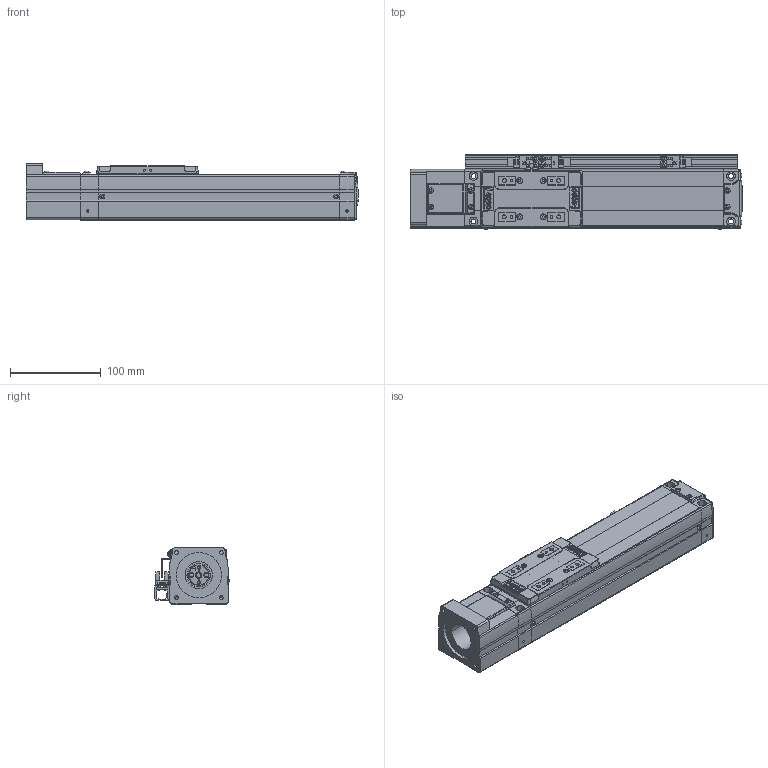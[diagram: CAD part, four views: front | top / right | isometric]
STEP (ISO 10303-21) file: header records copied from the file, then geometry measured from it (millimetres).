
FILE_DESCRIPTION(('STEP AP203'),'1');
FILE_NAME('Z:/Web/3D/SAN65/2012.ver/STP/150/SAN65ㅁㅁ-150S+3SL.stp','2014-06-13T05:50:55',(' '),(' '),'Spatial InterOp 3D',' ',' ');
FILE_SCHEMA(('CONFIG_CONTROL_DESIGN'));
Length unit declared in the file: millimetre
Products named in the file (74): 1; 2; 3; 4; 5; 6; 7; 8; 9; 10; 11; 12; 13; 14; 15; 16; 17; 18; 19; 20; 21; 22; 23; 24; 25; 26; 27; 28; 29; 30; 31; 32; 33; 34; 35; 36; 37; 38; 39; 40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
Bounding box: 366.15 x 82.06 x 62 mm (x, y, z)
Volume: 1199126.5 mm3; surface area: 226741 mm2
Topology: 74 solids, 74 shells, 2769 faces, 7269 edges, 4732 vertices
Faces by surface type: plane 1437, cylinder 920, cone 302, sphere 56, bspline 28, torus 20, extrusion 6
Full cylindrical faces by diameter (mm): 2.132 x1, 3.5 x2, 6 x2
Entity records: 92529 total; most frequent: CARTESIAN_POINT 18836, DIRECTION 15230, ORIENTED_EDGE 14422, EDGE_CURVE 7211, AXIS2_PLACEMENT_3D 5446, VERTEX_POINT 4731, VECTOR 4338, LINE 4332
